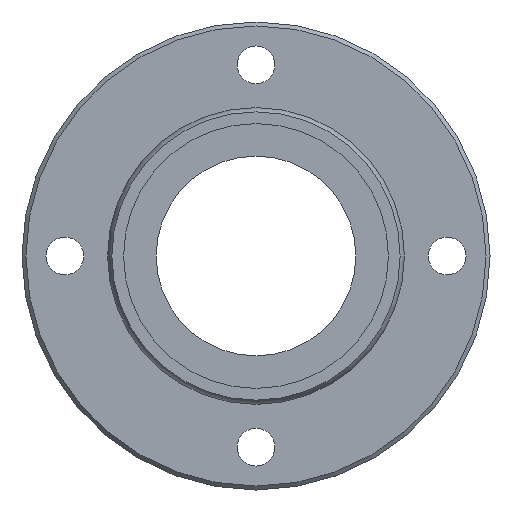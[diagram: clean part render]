
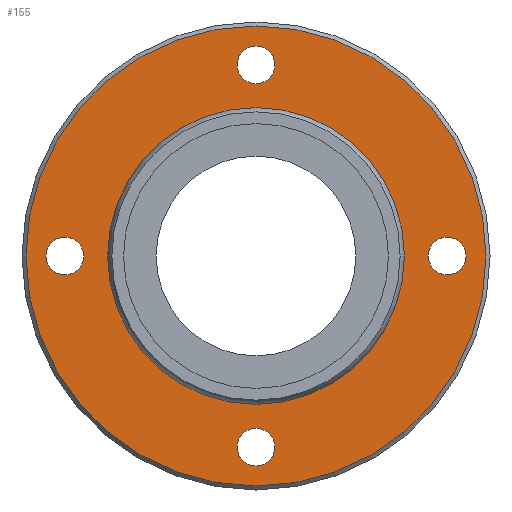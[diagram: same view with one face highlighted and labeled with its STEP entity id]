
A CAD part, left-side view. The second image highlights one B-rep face of the part: STEP entity #155.
In plain terms, the highlighted planar face has unit normal (-1, 0, 0).
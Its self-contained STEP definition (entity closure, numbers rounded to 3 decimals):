
#60=CARTESIAN_POINT('',(10.,0.,40.3));
#61=VERTEX_POINT('',#60);
#62=CARTESIAN_POINT('',(10.,0.0,0.0));
#63=DIRECTION('',(1.0,0.0,0.0));
#64=DIRECTION('',(0.0,0.0,-1.0));
#65=AXIS2_PLACEMENT_3D('',#62,#63,#64);
#66=CIRCLE('',#65,40.3);
#67=EDGE_CURVE('',#61,#61,#66,.T.);
#92=CARTESIAN_POINT('',(10.,0.0,33.357));
#93=DIRECTION('',(-1.0,0.0,0.0));
#94=DIRECTION('',(0.0,0.0,1.0));
#95=AXIS2_PLACEMENT_3D('',#92,#93,#94);
#96=PLANE('',#95);
#97=ORIENTED_EDGE('',*,*,#67,.F.);
#98=EDGE_LOOP('',(#97));
#99=FACE_OUTER_BOUND('',#98,.T.);
#100=CARTESIAN_POINT('',(10.,0.0,25.714));
#101=VERTEX_POINT('',#100);
#102=CARTESIAN_POINT('',(10.,0.0,0.0));
#103=DIRECTION('',(-1.0,0.0,0.0));
#104=DIRECTION('',(0.0,0.0,1.0));
#105=AXIS2_PLACEMENT_3D('',#102,#103,#104);
#106=CIRCLE('',#105,25.714);
#107=EDGE_CURVE('',#101,#101,#106,.T.);
#108=ORIENTED_EDGE('',*,*,#107,.F.);
#109=EDGE_LOOP('',(#108));
#110=FACE_BOUND('',#109,.T.);
#111=CARTESIAN_POINT('',(10.,30.2,0.));
#112=VERTEX_POINT('',#111);
#113=CARTESIAN_POINT('',(10.,33.5,0.));
#114=DIRECTION('',(1.0,0.0,0.0));
#115=DIRECTION('',(0.0,1.0,0.0));
#116=AXIS2_PLACEMENT_3D('',#113,#114,#115);
#117=CIRCLE('',#116,3.3);
#118=EDGE_CURVE('',#112,#112,#117,.T.);
#119=ORIENTED_EDGE('',*,*,#118,.T.);
#120=EDGE_LOOP('',(#119));
#121=FACE_BOUND('',#120,.T.);
#122=CARTESIAN_POINT('',(10.,-36.8,0.));
#123=VERTEX_POINT('',#122);
#124=CARTESIAN_POINT('',(10.,-33.5,0.0));
#125=DIRECTION('',(1.0,0.0,0.0));
#126=DIRECTION('',(0.0,1.0,0.0));
#127=AXIS2_PLACEMENT_3D('',#124,#125,#126);
#128=CIRCLE('',#127,3.3);
#129=EDGE_CURVE('',#123,#123,#128,.T.);
#130=ORIENTED_EDGE('',*,*,#129,.T.);
#131=EDGE_LOOP('',(#130));
#132=FACE_BOUND('',#131,.T.);
#133=CARTESIAN_POINT('',(10.,-3.3,33.5));
#134=VERTEX_POINT('',#133);
#135=CARTESIAN_POINT('',(10.,0.,33.5));
#136=DIRECTION('',(1.0,0.0,0.0));
#137=DIRECTION('',(0.0,1.0,0.0));
#138=AXIS2_PLACEMENT_3D('',#135,#136,#137);
#139=CIRCLE('',#138,3.3);
#140=EDGE_CURVE('',#134,#134,#139,.T.);
#141=ORIENTED_EDGE('',*,*,#140,.T.);
#142=EDGE_LOOP('',(#141));
#143=FACE_BOUND('',#142,.T.);
#144=CARTESIAN_POINT('',(10.,-3.3,-33.5));
#145=VERTEX_POINT('',#144);
#146=CARTESIAN_POINT('',(10.,0.,-33.5));
#147=DIRECTION('',(1.0,0.0,0.0));
#148=DIRECTION('',(0.0,1.0,0.0));
#149=AXIS2_PLACEMENT_3D('',#146,#147,#148);
#150=CIRCLE('',#149,3.3);
#151=EDGE_CURVE('',#145,#145,#150,.T.);
#152=ORIENTED_EDGE('',*,*,#151,.T.);
#153=EDGE_LOOP('',(#152));
#154=FACE_BOUND('',#153,.T.);
#155=ADVANCED_FACE('',(#99,#110,#121,#132,#143,#154),#96,.T.);
